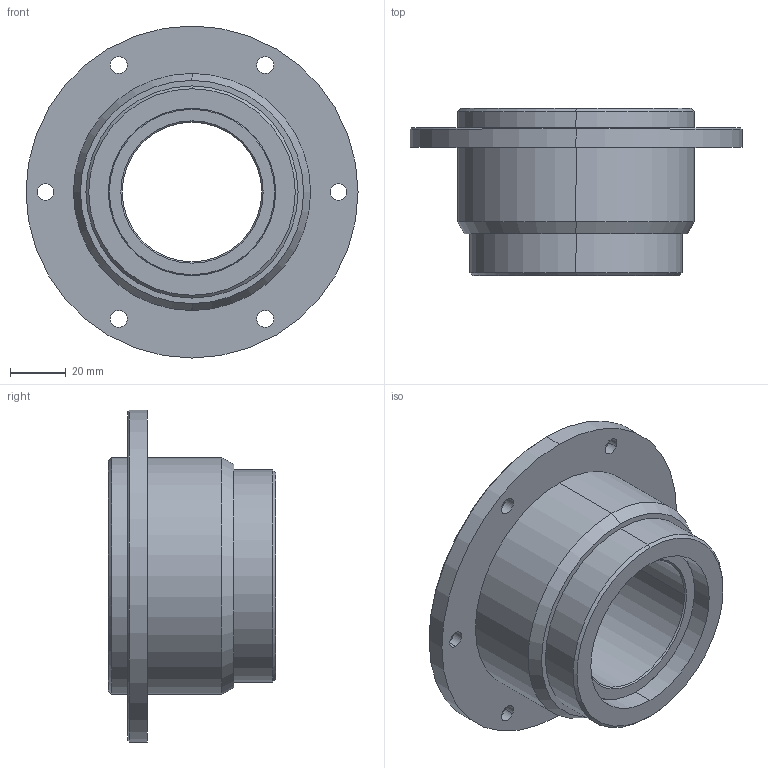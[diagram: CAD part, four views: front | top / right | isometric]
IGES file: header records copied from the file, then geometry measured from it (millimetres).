
Start section: 3D InterOp IGES (Version 20 0 1), Spatial Corp. Copyright (c) 1999-2007.
Global section: file name: 10.13.05.igs; native system: Spatial Corp.; preprocessor: 3D InterOp GENERIC/IGES 3.0; author: Noname; organization: Noname; date: 20111110.163414; units: metre
Bounding box: 119 x 60 x 119 mm (x, y, z)
Surface area: 64644.8 mm2 (no closed solid volume)
Topology: 0 solids, 0 shells, 89 faces, 924 edges, 1426 vertices
Faces by surface type: revolution 74, extrusion 15
